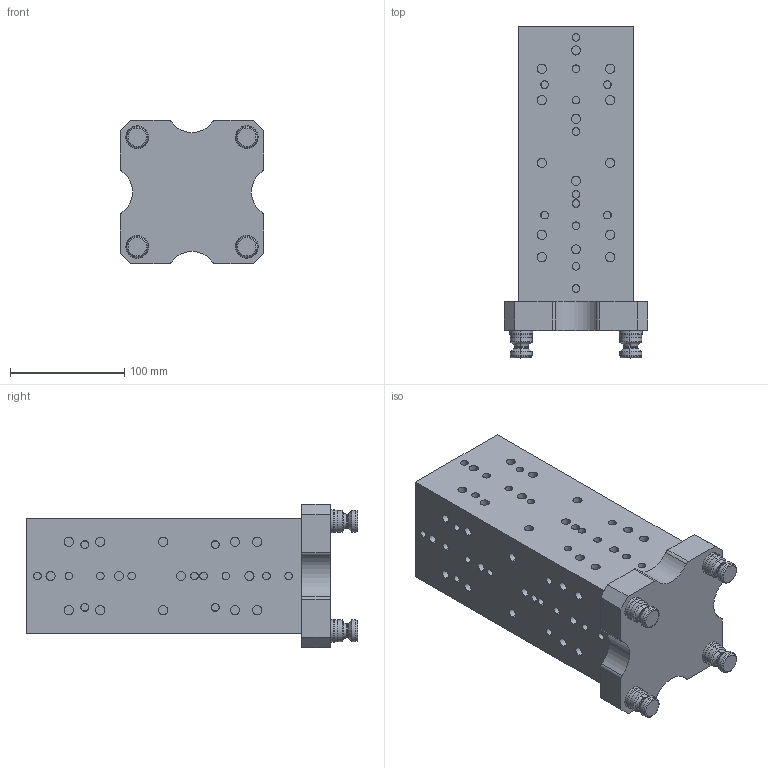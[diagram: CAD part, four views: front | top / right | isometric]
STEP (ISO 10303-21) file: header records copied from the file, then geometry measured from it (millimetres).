
FILE_DESCRIPTION (( 'STEP AP214' ), '1' );
FILE_NAME ('D_R96-V75100T4.STEP', '2020-03-13T22:15:48', ( '' ), ( '' ), 'SwSTEP 2.0', 'SolidWorks 2018', '' );
FILE_SCHEMA (( 'AUTOMOTIVE_DESIGN' ));
Length unit declared in the file: millimetre
Products named in the file (3): D_PS20F_HARD TURN; D_R96-V75100T4; D_R96-V75100T4-1
Assembly tree (5 placements, depth 2):
  D_R96-V75100T4
    D_R96-V75100T4-1
    D_PS20F_HARD TURN  x4
Bounding box: 125.73 x 290.7 x 125.73 mm (x, y, z)
Volume: 2811973.1 mm3; surface area: 188305.5 mm2
Topology: 5 solids, 5 shells, 545 faces, 1138 edges, 699 vertices
Faces by surface type: cylinder 286, plane 143, torus 64, cone 52
Entity records: 11981 total; most frequent: DIRECTION 2306, CARTESIAN_POINT 1963, ORIENTED_EDGE 1800, AXIS2_PLACEMENT_3D 986, EDGE_CURVE 900, VERTEX_POINT 579, CIRCLE 550, EDGE_LOOP 547
